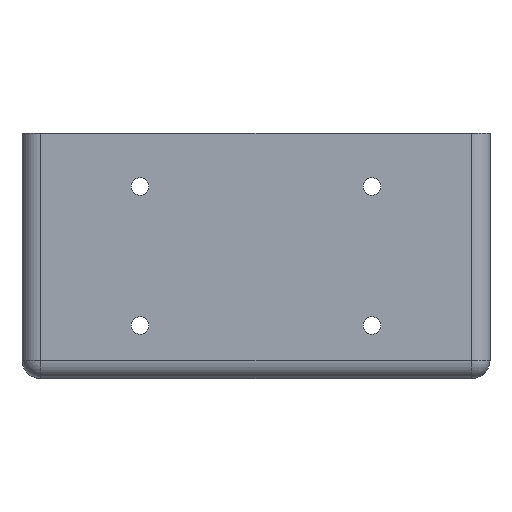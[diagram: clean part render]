
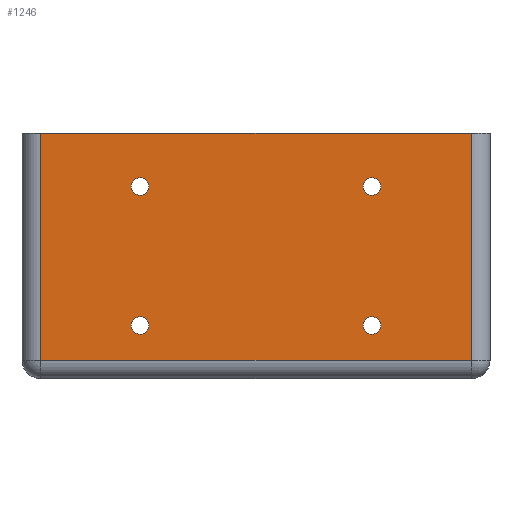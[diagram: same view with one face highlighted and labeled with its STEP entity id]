
A CAD part, front view. The second image highlights one B-rep face of the part: STEP entity #1246.
In plain terms, the highlighted planar face has unit normal (0, -1, 0).
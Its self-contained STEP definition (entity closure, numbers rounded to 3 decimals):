
#63=FACE_BOUND('',#269,.T.);
#64=FACE_BOUND('',#270,.T.);
#65=FACE_BOUND('',#271,.T.);
#66=FACE_BOUND('',#272,.T.);
#88=PLANE('',#1418);
#154=FACE_OUTER_BOUND('',#268,.T.);
#268=EDGE_LOOP('',(#1113,#1114,#1115,#1116));
#269=EDGE_LOOP('',(#1117));
#270=EDGE_LOOP('',(#1118));
#271=EDGE_LOOP('',(#1119));
#272=EDGE_LOOP('',(#1120));
#305=LINE('',#1931,#385);
#311=LINE('',#1975,#391);
#315=LINE('',#1981,#395);
#317=LINE('',#1984,#397);
#385=VECTOR('',#1529,10.);
#391=VECTOR('',#1581,10.);
#395=VECTOR('',#1589,10.);
#397=VECTOR('',#1593,10.);
#503=CIRCLE('',#1377,0.95);
#506=CIRCLE('',#1382,0.95);
#509=CIRCLE('',#1387,0.95);
#512=CIRCLE('',#1392,0.95);
#566=VERTEX_POINT('',#1928);
#567=VERTEX_POINT('',#1930);
#579=VERTEX_POINT('',#1964);
#580=VERTEX_POINT('',#1968);
#609=VERTEX_POINT('',#2074);
#612=VERTEX_POINT('',#2084);
#615=VERTEX_POINT('',#2094);
#618=VERTEX_POINT('',#2104);
#686=EDGE_CURVE('',#567,#566,#305,.T.);
#708=EDGE_CURVE('',#580,#579,#311,.T.);
#712=EDGE_CURVE('',#567,#580,#315,.T.);
#714=EDGE_CURVE('',#579,#566,#317,.T.);
#756=EDGE_CURVE('',#609,#609,#503,.T.);
#761=EDGE_CURVE('',#612,#612,#506,.T.);
#766=EDGE_CURVE('',#615,#615,#509,.T.);
#771=EDGE_CURVE('',#618,#618,#512,.T.);
#1113=ORIENTED_EDGE('',*,*,#712,.F.);
#1114=ORIENTED_EDGE('',*,*,#686,.T.);
#1115=ORIENTED_EDGE('',*,*,#714,.F.);
#1116=ORIENTED_EDGE('',*,*,#708,.F.);
#1117=ORIENTED_EDGE('',*,*,#756,.T.);
#1118=ORIENTED_EDGE('',*,*,#761,.T.);
#1119=ORIENTED_EDGE('',*,*,#766,.T.);
#1120=ORIENTED_EDGE('',*,*,#771,.T.);
#1246=ADVANCED_FACE('',(#154,#63,#64,#65,#66),#88,.T.);
#1377=AXIS2_PLACEMENT_3D('',#2076,#1706,#1707);
#1382=AXIS2_PLACEMENT_3D('',#2086,#1718,#1719);
#1387=AXIS2_PLACEMENT_3D('',#2096,#1730,#1731);
#1392=AXIS2_PLACEMENT_3D('',#2106,#1742,#1743);
#1418=AXIS2_PLACEMENT_3D('',#2159,#1807,#1808);
#1529=DIRECTION('',(-1.,0.,0.));
#1581=DIRECTION('',(-1.,0.,0.));
#1589=DIRECTION('',(0.,0.,-1.));
#1593=DIRECTION('',(0.,0.,1.));
#1706=DIRECTION('center_axis',(0.,1.,0.));
#1707=DIRECTION('ref_axis',(-1.,0.,0.));
#1718=DIRECTION('center_axis',(0.,1.,0.));
#1719=DIRECTION('ref_axis',(-1.,0.,0.));
#1730=DIRECTION('center_axis',(0.,1.,0.));
#1731=DIRECTION('ref_axis',(-1.,0.,0.));
#1742=DIRECTION('center_axis',(0.,1.,0.));
#1743=DIRECTION('ref_axis',(-1.,0.,0.));
#1807=DIRECTION('center_axis',(0.,-1.,0.));
#1808=DIRECTION('ref_axis',(1.,0.,0.));
#1928=CARTESIAN_POINT('',(-23.25,-45.75,26.5));
#1930=CARTESIAN_POINT('',(23.25,-45.75,26.5));
#1931=CARTESIAN_POINT('',(-22.25,-45.75,26.5));
#1964=CARTESIAN_POINT('',(-23.25,-45.75,2.));
#1968=CARTESIAN_POINT('',(23.25,-45.75,2.));
#1975=CARTESIAN_POINT('',(-15.875,-45.75,2.));
#1981=CARTESIAN_POINT('',(23.25,-45.75,6.625));
#1984=CARTESIAN_POINT('',(-23.25,-45.75,6.625));
#2074=CARTESIAN_POINT('',(-11.55,-45.75,20.75));
#2076=CARTESIAN_POINT('Origin',(-12.5,-45.75,20.75));
#2084=CARTESIAN_POINT('',(-11.55,-45.75,5.75));
#2086=CARTESIAN_POINT('Origin',(-12.5,-45.75,5.75));
#2094=CARTESIAN_POINT('',(13.45,-45.75,20.75));
#2096=CARTESIAN_POINT('Origin',(12.5,-45.75,20.75));
#2104=CARTESIAN_POINT('',(13.45,-45.75,5.75));
#2106=CARTESIAN_POINT('Origin',(12.5,-45.75,5.75));
#2159=CARTESIAN_POINT('Origin',(-22.25,-45.75,0.));
